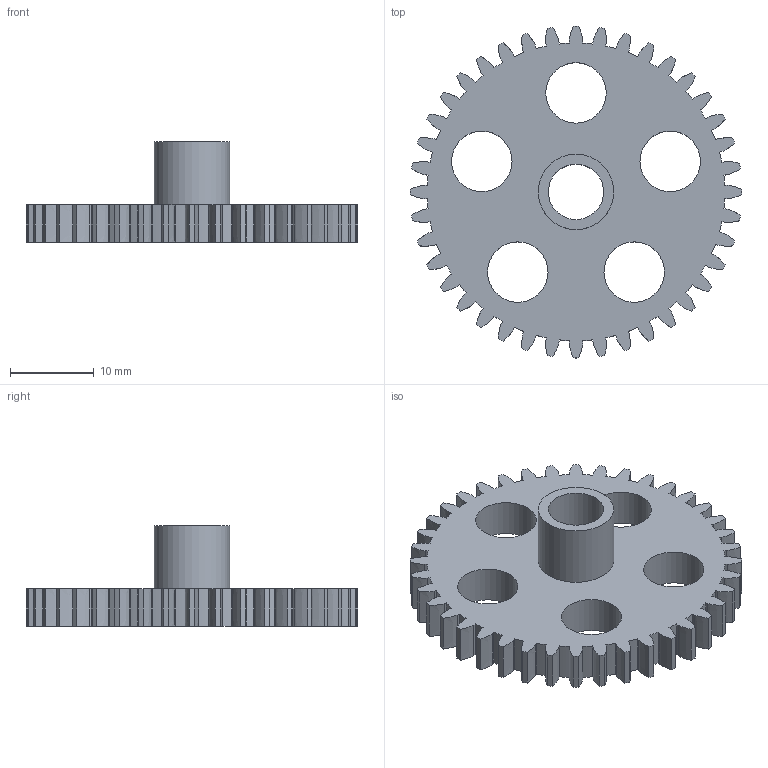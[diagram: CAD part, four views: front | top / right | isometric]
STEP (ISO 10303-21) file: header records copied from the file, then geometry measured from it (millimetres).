
FILE_DESCRIPTION(('Open CASCADE Model'),'2;1');
FILE_NAME('Open CASCADE Shape Model','2026-10-12T22:10:18',('Author'),( 'Open CASCADE'),'Open CASCADE STEP processor 7.9','Open CASCADE 7.9' ,'Unknown');
FILE_SCHEMA(('AUTOMOTIVE_DESIGN { 1 0 10303 214 1 1 1 1 }'));
Length unit declared in the file: millimetre
Products named in the file (1): Open CASCADE STEP translator 7.9 23
Bounding box: 39.55 x 39.55 x 12 mm (x, y, z)
Volume: 4069.2 mm3; surface area: 3786.5 mm2
Topology: 1 solids, 1 shells, 250 faces, 741 edges, 494 vertices
Faces by surface type: cylinder 87, plane 83, extrusion 80
Full cylindrical faces by diameter (mm): 6.6 x1, 7.2 x5, 9 x1
Entity records: 20186 total; most frequent: CARTESIAN_POINT 5768, DIRECTION 2499, VECTOR 1635, LINE 1555, ORIENTED_EDGE 1482, PCURVE 1482, DEFINITIONAL_REPRESENTATION 1482, EDGE_CURVE 741
